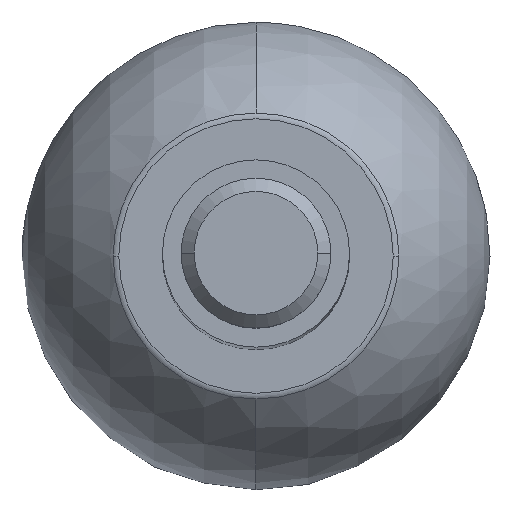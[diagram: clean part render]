
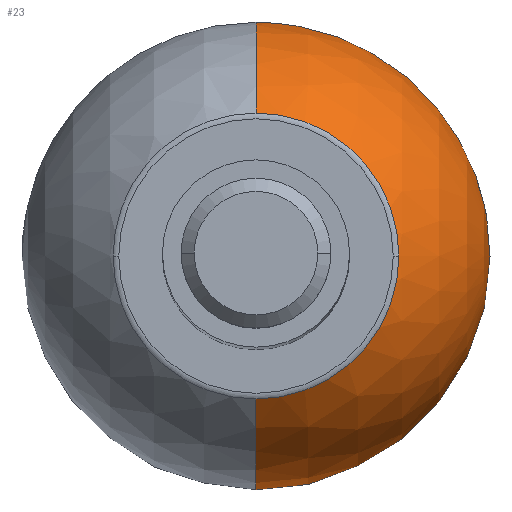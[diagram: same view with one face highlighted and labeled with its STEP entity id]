
A CAD part, top view. The second image highlights one B-rep face of the part: STEP entity #23.
In plain terms, the highlighted spherical face has radius 12.5 mm.
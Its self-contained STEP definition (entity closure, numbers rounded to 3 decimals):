
#6 = CIRCLE ( 'NONE', #214, 7.637 ) ;
#8 = DIRECTION ( 'NONE',  ( 0., 0., -1. ) ) ;
#23 = ADVANCED_FACE ( 'NONE', ( #105 ), #198, .T. ) ;
#36 = CIRCLE ( 'NONE', #68, 12.5 ) ;
#39 = CARTESIAN_POINT ( 'NONE',  ( 0., 0., -77.604 ) ) ;
#46 = VERTEX_POINT ( 'NONE', #200 ) ;
#68 = AXIS2_PLACEMENT_3D ( 'NONE', #440, #165, #437 ) ;
#81 = CARTESIAN_POINT ( 'NONE',  ( 7.637, 0., -77.604 ) ) ;
#91 = CIRCLE ( 'NONE', #147, 7.637 ) ;
#105 = FACE_OUTER_BOUND ( 'NONE', #393, .T. ) ;
#112 = AXIS2_PLACEMENT_3D ( 'NONE', #334, #244, #419 ) ;
#136 = VERTEX_POINT ( 'NONE', #228 ) ;
#147 = AXIS2_PLACEMENT_3D ( 'NONE', #39, #167, #266 ) ;
#165 = DIRECTION ( 'NONE',  ( -1., 0., 0. ) ) ;
#167 = DIRECTION ( 'NONE',  ( 0., 0., 1. ) ) ;
#198 = SPHERICAL_SURFACE ( 'NONE', #112, 12.5 ) ;
#200 = CARTESIAN_POINT ( 'NONE',  ( 0., -7.637, -77.604 ) ) ;
#207 = CARTESIAN_POINT ( 'NONE',  ( 0., 7.637, -77.604 ) ) ;
#212 = CIRCLE ( 'NONE', #560, 12.5 ) ;
#214 = AXIS2_PLACEMENT_3D ( 'NONE', #279, #487, #326 ) ;
#228 = CARTESIAN_POINT ( 'NONE',  ( 0., 0., -100. ) ) ;
#230 = ORIENTED_EDGE ( 'NONE', *, *, #388, .F. ) ;
#244 = DIRECTION ( 'NONE',  ( -1., 0., 0. ) ) ;
#257 = EDGE_CURVE ( 'NONE', #136, #431, #212, .T. ) ;
#266 = DIRECTION ( 'NONE',  ( 1., 0., 0. ) ) ;
#279 = CARTESIAN_POINT ( 'NONE',  ( 0., 0., -77.604 ) ) ;
#326 = DIRECTION ( 'NONE',  ( 1., 0., 0. ) ) ;
#334 = CARTESIAN_POINT ( 'NONE',  ( 0., 0., -87.5 ) ) ;
#360 = ORIENTED_EDGE ( 'NONE', *, *, #528, .F. ) ;
#372 = CARTESIAN_POINT ( 'NONE',  ( 0., 0., -87.5 ) ) ;
#388 = EDGE_CURVE ( 'NONE', #46, #441, #91, .T. ) ;
#393 = EDGE_LOOP ( 'NONE', ( #530, #525, #360, #230 ) ) ;
#402 = EDGE_CURVE ( 'NONE', #136, #46, #36, .T. ) ;
#419 = DIRECTION ( 'NONE',  ( 0., 1., 0. ) ) ;
#431 = VERTEX_POINT ( 'NONE', #207 ) ;
#437 = DIRECTION ( 'NONE',  ( 0., -1., 0. ) ) ;
#440 = CARTESIAN_POINT ( 'NONE',  ( 0., 0., -87.5 ) ) ;
#441 = VERTEX_POINT ( 'NONE', #81 ) ;
#458 = DIRECTION ( 'NONE',  ( 1., 0., 0. ) ) ;
#487 = DIRECTION ( 'NONE',  ( 0., 0., 1. ) ) ;
#525 = ORIENTED_EDGE ( 'NONE', *, *, #257, .T. ) ;
#528 = EDGE_CURVE ( 'NONE', #441, #431, #6, .T. ) ;
#530 = ORIENTED_EDGE ( 'NONE', *, *, #402, .F. ) ;
#560 = AXIS2_PLACEMENT_3D ( 'NONE', #372, #458, #8 ) ;
